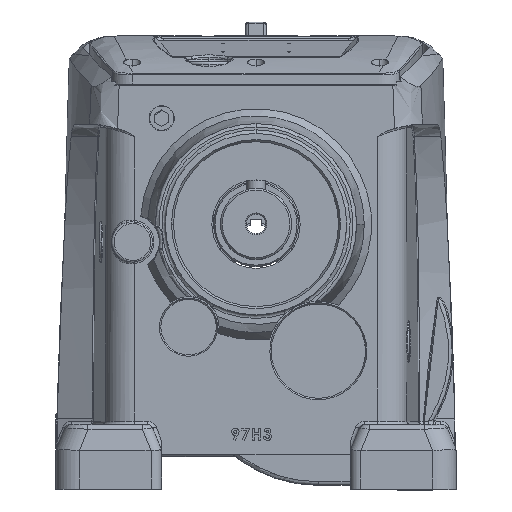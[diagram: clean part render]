
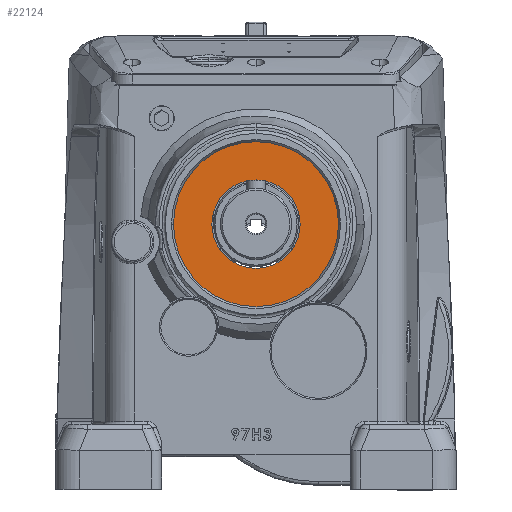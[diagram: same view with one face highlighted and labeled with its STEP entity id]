
A CAD part, top view. The second image highlights one B-rep face of the part: STEP entity #22124.
In plain terms, the highlighted planar face has unit normal (0, 0, 1).
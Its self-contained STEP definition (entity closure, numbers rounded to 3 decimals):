
#5679 = FACE_BOUND ( 'NONE', #20549, .T. ) ;
#5680 = FACE_OUTER_BOUND ( 'NONE', #20534, .T. ) ;
#20534 = EDGE_LOOP ( 'NONE', ( #45043, #45044 ) ) ;
#20549 = EDGE_LOOP ( 'NONE', ( #45041, #45042 ) ) ;
#21298 = VERTEX_POINT ( 'NONE', #49091 ) ;
#21303 = VERTEX_POINT ( 'NONE', #49086 ) ;
#21315 = VERTEX_POINT ( 'NONE', #49074 ) ;
#21330 = VERTEX_POINT ( 'NONE', #49058 ) ;
#22124 = ADVANCED_FACE ( 'NONE', ( #5679, #5680 ), #43118, .F. ) ;
#25930 = CIRCLE ( 'NONE', #25935, 70. ) ;
#25935 = AXIS2_PLACEMENT_3D ( 'NONE', #26479, #26480, #26481 ) ;
#26479 = CARTESIAN_POINT ( 'NONE',  ( 0., 0., 14. ) ) ;
#26480 = DIRECTION ( 'NONE',  ( 0., 0., 1. ) ) ;
#26481 = DIRECTION ( 'NONE',  ( 1., 0., 0. ) ) ;
#28207 = CIRCLE ( 'NONE', #28223, 70. ) ;
#28211 = CIRCLE ( 'NONE', #28217, 37.5 ) ;
#28217 = AXIS2_PLACEMENT_3D ( 'NONE', #34452, #34454, #34456 ) ;
#28223 = AXIS2_PLACEMENT_3D ( 'NONE', #34480, #34482, #34483 ) ;
#28224 = CIRCLE ( 'NONE', #28232, 37.5 ) ;
#28232 = AXIS2_PLACEMENT_3D ( 'NONE', #34520, #34522, #34524 ) ;
#28360 = AXIS2_PLACEMENT_3D ( 'NONE', #43117, #43116, #43115 ) ;
#34452 = CARTESIAN_POINT ( 'NONE',  ( 0., 0., 14. ) ) ;
#34454 = DIRECTION ( 'NONE',  ( 0., 0., 1. ) ) ;
#34456 = DIRECTION ( 'NONE',  ( 1., 0., 0. ) ) ;
#34480 = CARTESIAN_POINT ( 'NONE',  ( 0., 0., 14. ) ) ;
#34482 = DIRECTION ( 'NONE',  ( 0., 0., 1. ) ) ;
#34483 = DIRECTION ( 'NONE',  ( 1., 0., 0. ) ) ;
#34520 = CARTESIAN_POINT ( 'NONE',  ( 0., 0., 14. ) ) ;
#34522 = DIRECTION ( 'NONE',  ( 0., 0., 1. ) ) ;
#34524 = DIRECTION ( 'NONE',  ( 1., 0., 0. ) ) ;
#43115 = DIRECTION ( 'NONE',  ( -1., 0., 0. ) ) ;
#43116 = DIRECTION ( 'NONE',  ( 0., 0., -1. ) ) ;
#43117 = CARTESIAN_POINT ( 'NONE',  ( 0., 70., 14. ) ) ;
#43118 = PLANE ( 'NONE',  #28360 ) ;
#45041 = ORIENTED_EDGE ( 'NONE', *, *, #65897, .F. ) ;
#45042 = ORIENTED_EDGE ( 'NONE', *, *, #65887, .F. ) ;
#45043 = ORIENTED_EDGE ( 'NONE', *, *, #65891, .T. ) ;
#45044 = ORIENTED_EDGE ( 'NONE', *, *, #65337, .T. ) ;
#49058 = CARTESIAN_POINT ( 'NONE',  ( 70., 0., 14. ) ) ;
#49074 = CARTESIAN_POINT ( 'NONE',  ( -37.5, 0., 14. ) ) ;
#49086 = CARTESIAN_POINT ( 'NONE',  ( 37.5, 0., 14. ) ) ;
#49091 = CARTESIAN_POINT ( 'NONE',  ( -70., 0., 14. ) ) ;
#65337 = EDGE_CURVE ( 'NONE', #21298, #21330, #25930, .T. ) ;
#65887 = EDGE_CURVE ( 'NONE', #21315, #21303, #28211, .T. ) ;
#65891 = EDGE_CURVE ( 'NONE', #21330, #21298, #28207, .T. ) ;
#65897 = EDGE_CURVE ( 'NONE', #21303, #21315, #28224, .T. ) ;
